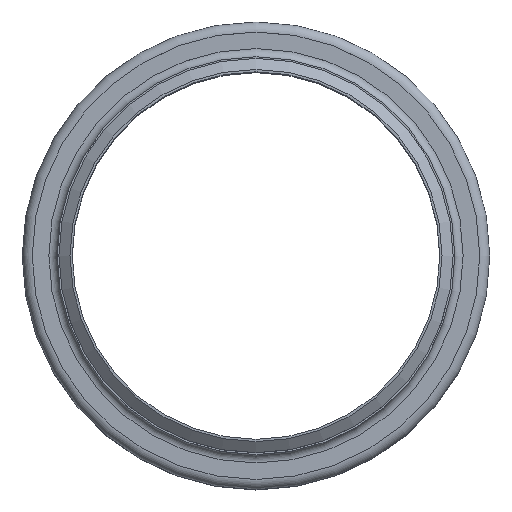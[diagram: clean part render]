
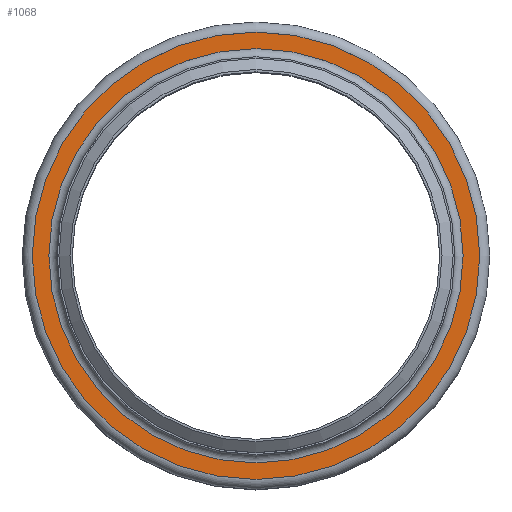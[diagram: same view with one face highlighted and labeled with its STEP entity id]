
A CAD part, top view. The second image highlights one B-rep face of the part: STEP entity #1068.
In plain terms, the highlighted planar face has unit normal (0, 0, 1).
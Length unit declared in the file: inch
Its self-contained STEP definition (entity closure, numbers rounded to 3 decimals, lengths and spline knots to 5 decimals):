
#102=FACE_BOUND('',#282,.T.);
#171=FACE_OUTER_BOUND('',#281,.T.);
#281=EDGE_LOOP('',(#824));
#282=EDGE_LOOP('',(#825));
#402=CIRCLE('',#1264,5.649);
#403=CIRCLE('',#1266,6.101);
#491=VERTEX_POINT('',#1935);
#492=VERTEX_POINT('',#1939);
#606=EDGE_CURVE('',#491,#491,#402,.T.);
#607=EDGE_CURVE('',#492,#492,#403,.T.);
#824=ORIENTED_EDGE('',*,*,#607,.F.);
#825=ORIENTED_EDGE('',*,*,#606,.T.);
#918=PLANE('',#1265);
#1068=ADVANCED_FACE('',(#171,#102),#918,.T.);
#1264=AXIS2_PLACEMENT_3D('',#1937,#1621,#1622);
#1265=AXIS2_PLACEMENT_3D('',#1938,#1623,#1624);
#1266=AXIS2_PLACEMENT_3D('',#1940,#1625,#1626);
#1621=DIRECTION('center_axis',(0.,0.,
-1.));
#1622=DIRECTION('ref_axis',(1.,0.,0.));
#1623=DIRECTION('center_axis',(0.,0.,
1.));
#1624=DIRECTION('ref_axis',(1.,0.,0.));
#1625=DIRECTION('center_axis',(0.,0.,
-1.));
#1626=DIRECTION('ref_axis',(1.,0.,0.));
#1935=CARTESIAN_POINT('',(5.649,0.,-1.726));
#1937=CARTESIAN_POINT('Origin',(0.,0.,
-1.726));
#1938=CARTESIAN_POINT('Origin',(0.,6.101,-1.726));
#1939=CARTESIAN_POINT('',(6.101,0.,-1.726));
#1940=CARTESIAN_POINT('Origin',(0.,0.,
-1.726));
